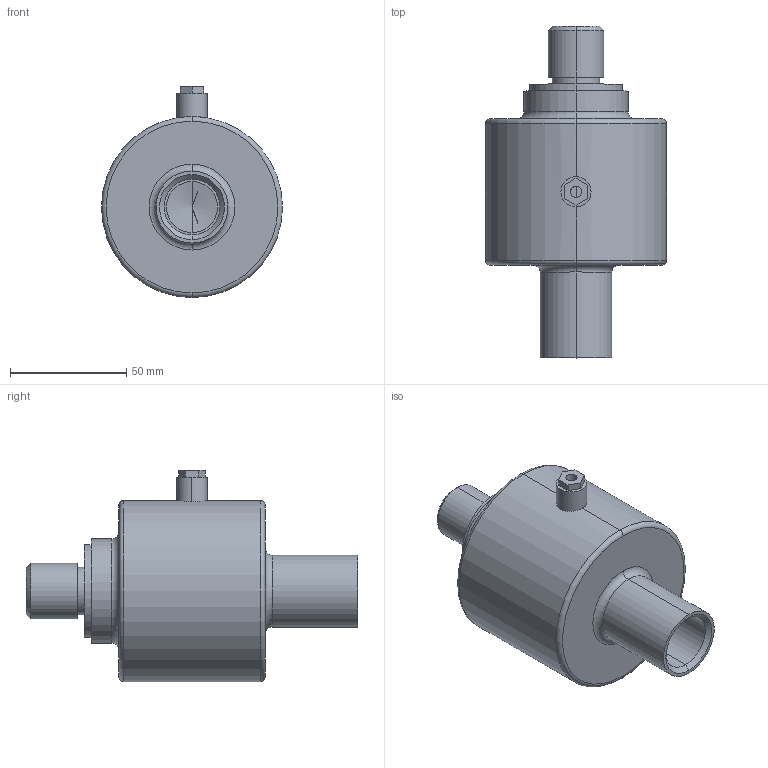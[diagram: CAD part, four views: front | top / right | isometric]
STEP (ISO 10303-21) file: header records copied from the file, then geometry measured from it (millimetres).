
FILE_DESCRIPTION((''),'1');
FILE_NAME('LFLB_M24_10000_kg.step','2024-05-28T14:27:18',(''),(''),'','','');
FILE_SCHEMA(('AUTOMOTIVE_DESIGN { 1 0 10303 214 1 1 1 1 }'));
Products named in the file (1): LFLB M24_10000_kg
Bounding box: 78 x 143 x 91 mm (x, y, z)
Volume: 352151.1 mm3; surface area: 35201.6 mm2
Topology: 1 solids, 1 shells, 52 faces, 112 edges, 69 vertices
Faces by surface type: cylinder 22, plane 16, torus 8, cone 6
Entity records: 1560 total; most frequent: CARTESIAN_POINT 376, DIRECTION 264, ORIENTED_EDGE 220, EDGE_CURVE 110, AXIS2_PLACEMENT_3D 109, VERTEX_POINT 69, EDGE_LOOP 61, CIRCLE 56
